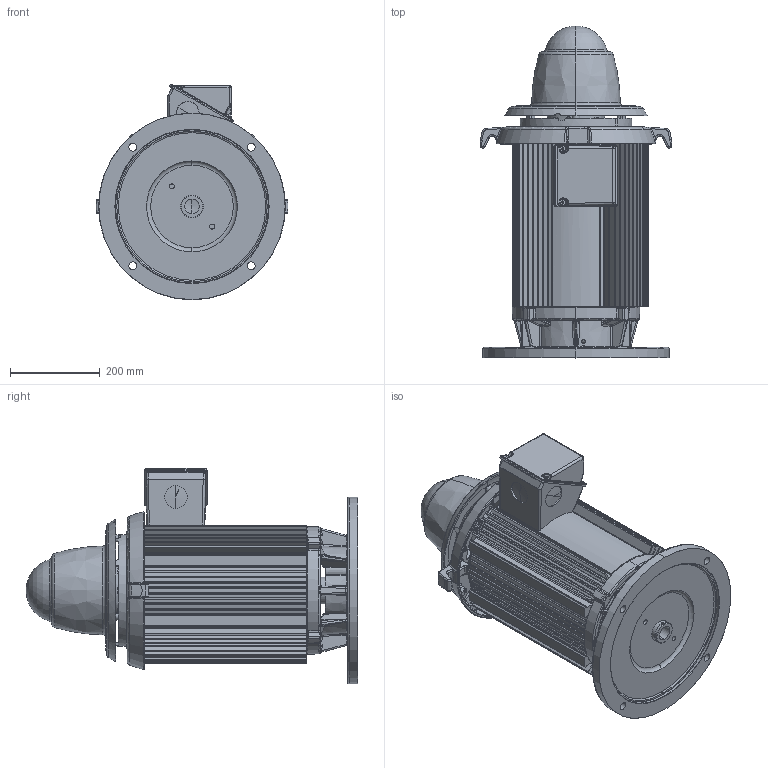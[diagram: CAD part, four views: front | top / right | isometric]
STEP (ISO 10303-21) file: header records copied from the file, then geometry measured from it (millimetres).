
FILE_DESCRIPTION((''),'2;1');
FILE_NAME('280AU_ASSY_ASM','2016-03-31T',('emd2341'),('Nidec Motor Corporation'),'PRO/ENGINEER BY PARAMETRIC TECHNOLOGY CORPORATION, 2013150','PRO/ENGINEER BY PARAMETRIC TECHNOLOGY CORPORATION, 2013150','');
FILE_SCHEMA(('CONFIG_CONTROL_DESIGN'));
Length unit declared in the file: inch
Products named in the file (9): 0649377_AF0; 1001461; 0396184; 0116910; SHAFT; 0396188-CAP; 0364282-OBB; 0364292; 280AU_ASSY_ASM
Assembly tree (8 placements, depth 2):
  280AU_ASSY_ASM
    0649377_AF0
    1001461
    0396184
    0116910
    SHAFT
    0396188-CAP
    0364282-OBB
    0364292
Bounding box: 428.26 x 741.25 x 481.8 mm (x, y, z)
Volume: 9019524.8 mm3; surface area: 2880684.1 mm2
Topology: 10 solids, 10 shells, 3290 faces, 7964 edges, 4649 vertices
Faces by surface type: bspline 1135, cylinder 799, plane 619, torus 350, cone 283, sphere 102, extrusion 2
Entity records: 149214 total; most frequent: CARTESIAN_POINT 81478, ORIENTED_EDGE 15814, DIRECTION 11996, EDGE_CURVE 7907, AXIS2_PLACEMENT_3D 5033, VERTEX_POINT 4649, EDGE_LOOP 3418, FACE_OUTER_BOUND 3290
